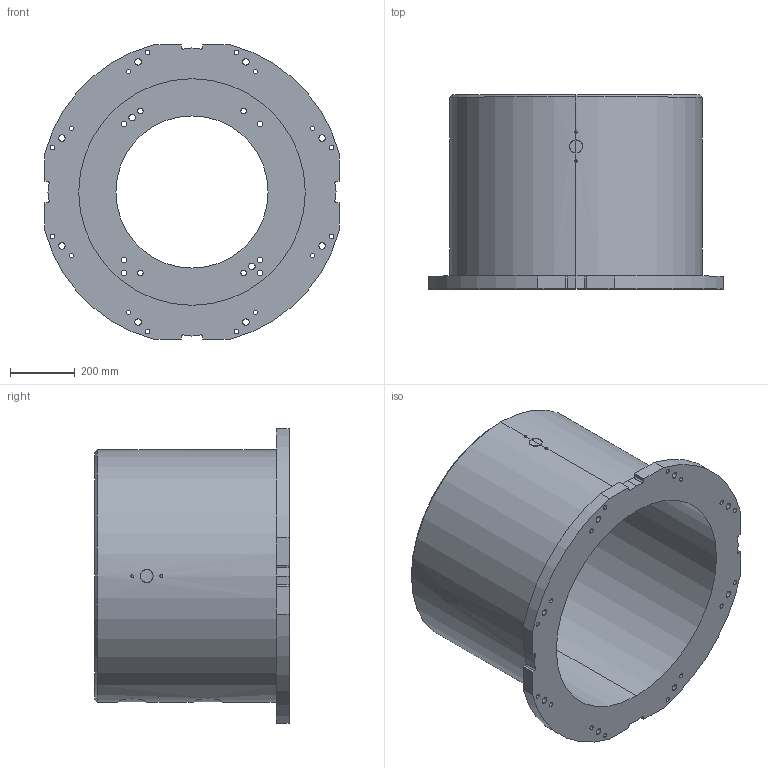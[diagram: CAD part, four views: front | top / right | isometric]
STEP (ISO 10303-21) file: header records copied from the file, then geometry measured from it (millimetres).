
FILE_DESCRIPTION (( 'STEP AP214' ), '1' );
FILE_NAME ('P-600.STEP', '2024-01-24T08:39:15', ( '' ), ( '' ), 'SwSTEP 2.0', 'SolidWorks 2022', '' );
FILE_SCHEMA (( 'AUTOMOTIVE_DESIGN' ));
Length unit declared in the file: millimetre
Products named in the file (1): P-600
Bounding box: 910 x 600 x 910 mm (x, y, z)
Volume: 71348573.4 mm3; surface area: 3851038.3 mm2
Topology: 1 solids, 1 shells, 203 faces, 565 edges, 376 vertices
Faces by surface type: cylinder 149, plane 28, bspline 24, cone 2
Entity records: 12485 total; most frequent: CARTESIAN_POINT 6354, ORIENTED_EDGE 1130, DIRECTION 969, EDGE_CURVE 565, AXIS2_PLACEMENT_3D 378, VERTEX_POINT 376, EDGE_LOOP 289, VECTOR 213
